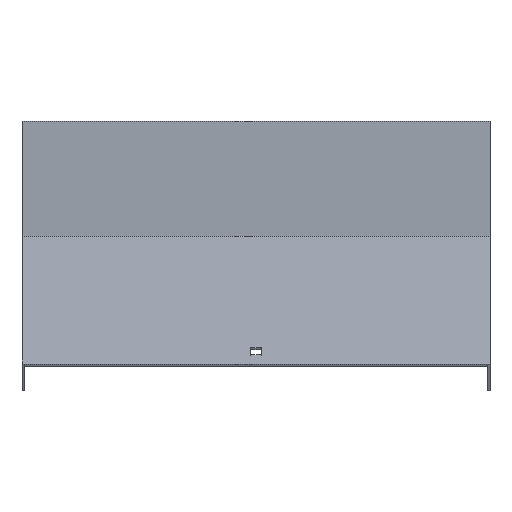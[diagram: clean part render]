
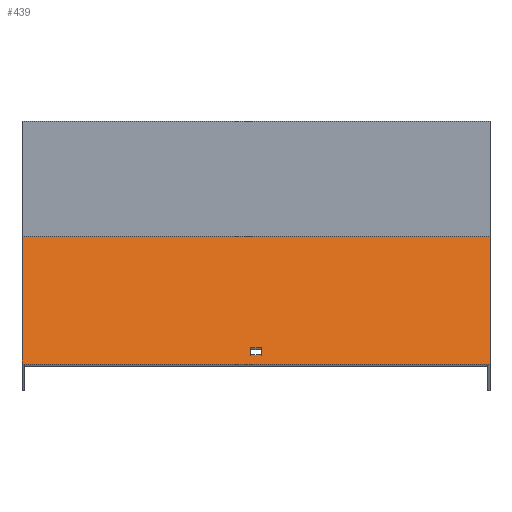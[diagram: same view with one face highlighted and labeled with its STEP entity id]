
A CAD part, top view. The second image highlights one B-rep face of the part: STEP entity #439.
In plain terms, the highlighted planar face has unit normal (0, 0.866, 0.5).
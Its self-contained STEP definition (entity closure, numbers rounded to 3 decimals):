
#2 = VECTOR ( 'NONE', #216, 1000. ) ;
#5 = VECTOR ( 'NONE', #158, 1000. ) ;
#13 = PLANE ( 'NONE',  #645 ) ;
#33 = ORIENTED_EDGE ( 'NONE', *, *, #199, .T. ) ;
#49 = CARTESIAN_POINT ( 'NONE',  ( 3.25, -131.943, 579.059 ) ) ;
#50 = ORIENTED_EDGE ( 'NONE', *, *, #469, .T. ) ;
#56 = LINE ( 'NONE', #520, #253 ) ;
#70 = CARTESIAN_POINT ( 'NONE',  ( 151.5, -55.126, 446.009 ) ) ;
#85 = LINE ( 'NONE', #70, #2 ) ;
#105 = LINE ( 'NONE', #631, #613 ) ;
#127 = EDGE_CURVE ( 'NONE', #538, #486, #231, .T. ) ;
#135 = EDGE_CURVE ( 'NONE', #478, #220, #838, .T. ) ;
#140 = EDGE_LOOP ( 'NONE', ( #33, #528, #730, #50 ) ) ;
#157 = EDGE_CURVE ( 'NONE', #444, #478, #386, .T. ) ;
#158 = DIRECTION ( 'NONE',  ( -1., 0., 0. ) ) ;
#162 = DIRECTION ( 'NONE',  ( 0., -0.5, 0.866 ) ) ;
#197 = VERTEX_POINT ( 'NONE', #49 ) ;
#199 = EDGE_CURVE ( 'NONE', #553, #486, #105, .T. ) ;
#207 = ORIENTED_EDGE ( 'NONE', *, *, #135, .T. ) ;
#212 = CARTESIAN_POINT ( 'NONE',  ( 151.5, -55.126, 446.009 ) ) ;
#216 = DIRECTION ( 'NONE',  ( -1., 0., 0. ) ) ;
#220 = VERTEX_POINT ( 'NONE', #760 ) ;
#228 = DIRECTION ( 'NONE',  ( 0., -0.866, -0.5 ) ) ;
#231 = LINE ( 'NONE', #492, #5 ) ;
#246 = EDGE_CURVE ( 'NONE', #220, #197, #842, .T. ) ;
#253 = VECTOR ( 'NONE', #591, 1000. ) ;
#255 = DIRECTION ( 'NONE',  ( 1., 0., 0. ) ) ;
#269 = FACE_BOUND ( 'NONE', #499, .T. ) ;
#290 = VECTOR ( 'NONE', #639, 1000. ) ;
#298 = FACE_OUTER_BOUND ( 'NONE', #140, .T. ) ;
#316 = DIRECTION ( 'NONE',  ( 0., 0.5, -0.866 ) ) ;
#343 = CARTESIAN_POINT ( 'NONE',  ( 151.5, -137.943, 589.451 ) ) ;
#386 = LINE ( 'NONE', #579, #785 ) ;
#402 = CARTESIAN_POINT ( 'NONE',  ( 151.5, -56.443, 448.289 ) ) ;
#407 = EDGE_CURVE ( 'NONE', #197, #444, #56, .T. ) ;
#425 = LINE ( 'NONE', #698, #599 ) ;
#439 = ADVANCED_FACE ( 'NONE', ( #269, #298 ), #13, .F. ) ;
#444 = VERTEX_POINT ( 'NONE', #470 ) ;
#464 = VERTEX_POINT ( 'NONE', #212 ) ;
#469 = EDGE_CURVE ( 'NONE', #464, #553, #85, .T. ) ;
#470 = CARTESIAN_POINT ( 'NONE',  ( -3.25, -131.943, 579.059 ) ) ;
#478 = VERTEX_POINT ( 'NONE', #734 ) ;
#486 = VERTEX_POINT ( 'NONE', #540 ) ;
#492 = CARTESIAN_POINT ( 'NONE',  ( 151.5, -137.943, 589.451 ) ) ;
#499 = EDGE_LOOP ( 'NONE', ( #207, #597, #825, #780 ) ) ;
#520 = CARTESIAN_POINT ( 'NONE',  ( 151.5, -131.943, 579.059 ) ) ;
#528 = ORIENTED_EDGE ( 'NONE', *, *, #127, .F. ) ;
#534 = VECTOR ( 'NONE', #255, 1000. ) ;
#538 = VERTEX_POINT ( 'NONE', #343 ) ;
#540 = CARTESIAN_POINT ( 'NONE',  ( -151.5, -137.943, 589.451 ) ) ;
#553 = VERTEX_POINT ( 'NONE', #762 ) ;
#574 = DIRECTION ( 'NONE',  ( 0., -0.5, 0.866 ) ) ;
#579 = CARTESIAN_POINT ( 'NONE',  ( -3.25, -56.443, 448.289 ) ) ;
#590 = EDGE_CURVE ( 'NONE', #464, #538, #425, .T. ) ;
#591 = DIRECTION ( 'NONE',  ( -1., 0., 0. ) ) ;
#597 = ORIENTED_EDGE ( 'NONE', *, *, #246, .T. ) ;
#599 = VECTOR ( 'NONE', #162, 1000. ) ;
#613 = VECTOR ( 'NONE', #574, 1000. ) ;
#631 = CARTESIAN_POINT ( 'NONE',  ( -151.5, -56.443, 448.289 ) ) ;
#639 = DIRECTION ( 'NONE',  ( 0., -0.5, 0.866 ) ) ;
#645 = AXIS2_PLACEMENT_3D ( 'NONE', #402, #228, #803 ) ;
#698 = CARTESIAN_POINT ( 'NONE',  ( 151.5, -56.443, 448.289 ) ) ;
#730 = ORIENTED_EDGE ( 'NONE', *, *, #590, .F. ) ;
#734 = CARTESIAN_POINT ( 'NONE',  ( -3.25, -127.443, 571.264 ) ) ;
#756 = CARTESIAN_POINT ( 'NONE',  ( 3.25, -56.443, 448.289 ) ) ;
#760 = CARTESIAN_POINT ( 'NONE',  ( 3.25, -127.443, 571.264 ) ) ;
#762 = CARTESIAN_POINT ( 'NONE',  ( -151.5, -55.126, 446.009 ) ) ;
#772 = CARTESIAN_POINT ( 'NONE',  ( 151.5, -127.443, 571.264 ) ) ;
#780 = ORIENTED_EDGE ( 'NONE', *, *, #157, .T. ) ;
#785 = VECTOR ( 'NONE', #316, 1000. ) ;
#803 = DIRECTION ( 'NONE',  ( 0., 0.5, -0.866 ) ) ;
#825 = ORIENTED_EDGE ( 'NONE', *, *, #407, .T. ) ;
#838 = LINE ( 'NONE', #772, #534 ) ;
#842 = LINE ( 'NONE', #756, #290 ) ;
